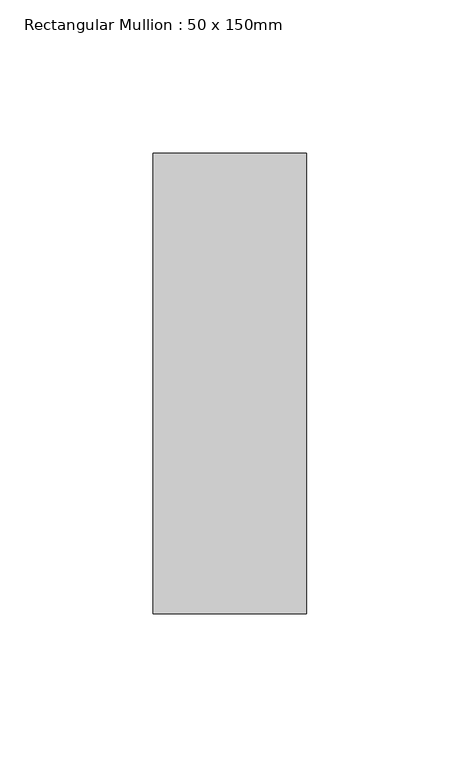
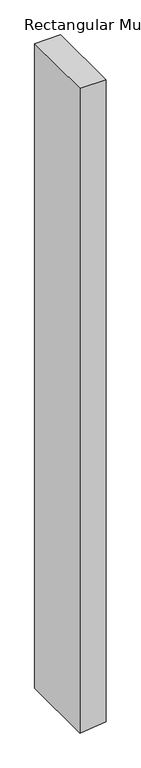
"""IFC4 building model written with IfcOpenShell, lengths in millimetres: member geometry, Rectangular Mullion : 50 x 150mm."""

from ifc_helpers import new_model, si_unit, frame, origin, place, context, project, spatial, polyline, outline, extrude, source, transform, mapped, element, save


def rectangular_mullion_50_x_150mm_f2b22c01(model_context):
    return source(origin(), model_context, "Body", "SweptSolid", [
        extrude(outline(polyline([(0.0, 25.0), (0.0, -25.0), (-1307.6279135, -25.0), (-1305.6171464, -5.0022633), (-1302.6004268, 25.0), (0.0, 25.0)])), frame((0.0, -75.0, 0.0), z_axis=(0.0, 1.0, 0.0), x_axis=(0.0, 0.0, 1.0)), (0.0, 0.0, 1.0), 150.0),
    ])


if __name__ == "__main__":
    model = new_model("IFC4")
    model_context = context("Model", 3, world=origin())
    ifc_project = project(units=[si_unit("LENGTHUNIT", "METRE", prefix="MILLI")], contexts=[model_context])
    site = spatial("IfcSite", under=ifc_project)
    building = spatial("IfcBuilding", under=site)
    placement = place(None, origin())
    rectangular_mullion_50_x_150mm_shape = rectangular_mullion_50_x_150mm_f2b22c01(model_context)
    element("IfcMember", 1, ObjectType="Rectangular Mullion : 50 x 150mm", at=placement, inside=building, context=model_context, shape_type="MappedRepresentation", body=[
        mapped(rectangular_mullion_50_x_150mm_shape, transform((0.0, 0.0, 0.0), x_axis=(1.0, 0.0, 0.0), y_axis=(0.0, 1.0, 0.0), z_axis=(0.0, 0.0, 1.0))),
    ])
    save(model, "model.ifc")
